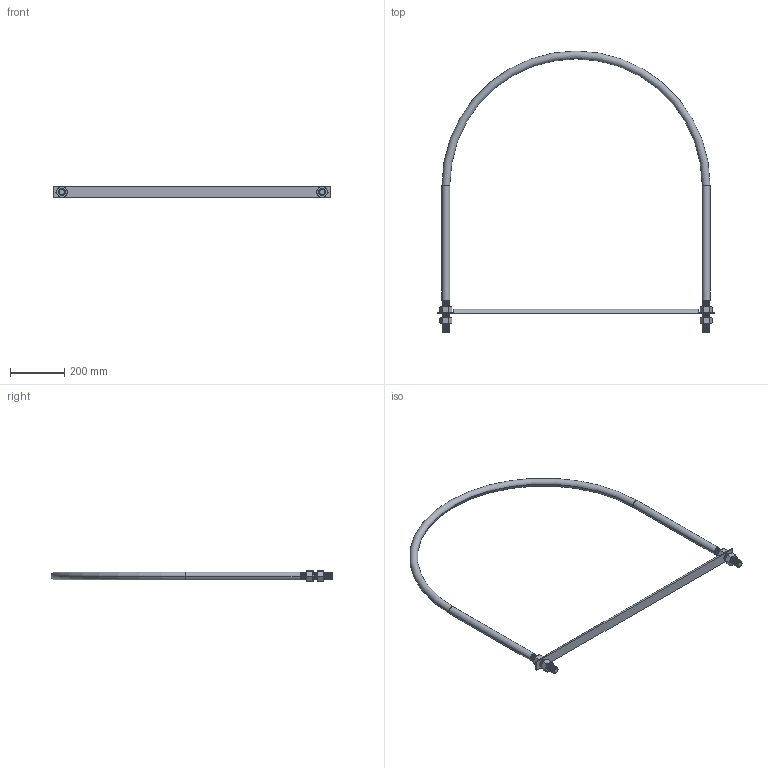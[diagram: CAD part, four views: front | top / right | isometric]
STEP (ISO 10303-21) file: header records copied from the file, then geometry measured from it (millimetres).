
FILE_DESCRIPTION (( 'STEP AP214' ), '1' );
FILE_NAME ('NUB1480.STEP', '2022-04-04T18:13:06', ( '' ), ( '' ), 'SwSTEP 2.0', 'SolidWorks 2021', '' );
FILE_SCHEMA (( 'AUTOMOTIVE_DESIGN' ));
Length unit declared in the file: inch
Products named in the file (4): ROD0654_IR28-36 XL [ROD0654]; UBT1007_UBT28-36-1-8 XL [NUB1480]; FAS0050; NUB1480
Assembly tree (6 placements, depth 2):
  NUB1480
    FAS0050  x4
    UBT1007_UBT28-36-1-8 XL [NUB1480]
    ROD0654_IR28-36 XL [ROD0654]
Bounding box: 1016 x 1035.15 x 39.77 mm (x, y, z)
Volume: 2135409 mm3; surface area: 743537.5 mm2
Topology: 7 solids, 7 shells, 310 faces, 812 edges, 516 vertices
Faces by surface type: cylinder 179, cone 76, plane 45, torus 6, bspline 4
Entity records: 19534 total; most frequent: CARTESIAN_POINT 14387, ORIENTED_EDGE 1228, DIRECTION 807, EDGE_CURVE 614, VERTEX_POINT 399, AXIS2_PLACEMENT_3D 303, EDGE_LOOP 231, FACE_OUTER_BOUND 223
